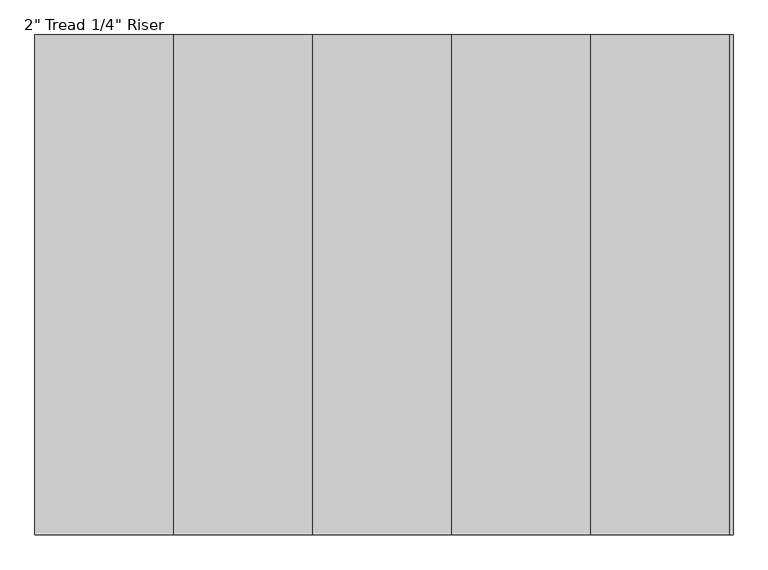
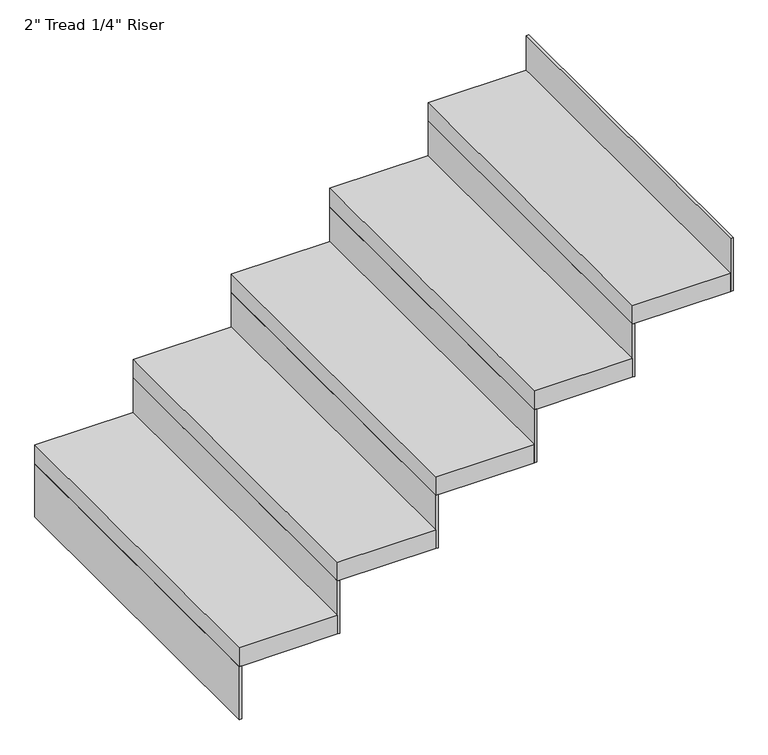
"""IFC4 building model written with IfcOpenShell, lengths in millimetres: stair flight geometry."""

from ifc_helpers import new_model, si_unit, frame, origin, place, context, project, spatial, polyline, outline, extrude, source, transform, mapped, element, save


def stair_flight_6df5a2fd(model_context):
    return source(origin(), model_context, "Body", "SweptSolid", [
        extrude(outline(polyline([(162615.3528142, 32332.2812523), (162609.0028142, 32332.2812523), (162609.0028142, 33246.6812523), (162615.3528142, 33246.6812523), (162615.3528142, 32332.2812523)])), frame((0.0, 0.0, 2126.3428571), z_axis=(0.0, 0.0, 1.0), x_axis=(1.0, 0.0, 0.0)), (0.0, 0.0, 1.0), 145.1428571),
        extrude(outline(polyline([(162863.0028142, 33246.6812523), (162863.0028142, 32332.2812523), (162609.0028142, 32332.2812523), (162609.0028142, 33246.6812523), (162863.0028142, 33246.6812523)])), frame((0.0, 0.0, 2271.4857143), z_axis=(0.0, 0.0, 1.0), x_axis=(1.0, 0.0, 0.0)), (0.0, 0.0, 1.0), 50.8),
        extrude(outline(polyline([(162869.3528142, 32332.2812523), (162863.0028142, 32332.2812523), (162863.0028142, 33246.6812523), (162869.3528142, 33246.6812523), (162869.3528142, 32332.2812523)])), frame((0.0, 0.0, 2271.4857143), z_axis=(0.0, 0.0, 1.0), x_axis=(1.0, 0.0, 0.0)), (0.0, 0.0, 1.0), 145.1428571),
        extrude(outline(polyline([(163117.0028142, 33246.6812523), (163117.0028142, 32332.2812523), (162863.0028142, 32332.2812523), (162863.0028142, 33246.6812523), (163117.0028142, 33246.6812523)])), frame((0.0, 0.0, 2416.6285714), z_axis=(0.0, 0.0, 1.0), x_axis=(1.0, 0.0, 0.0)), (0.0, 0.0, 1.0), 50.8),
        extrude(outline(polyline([(163123.3528142, 32332.2812523), (163117.0028142, 32332.2812523), (163117.0028142, 33246.6812523), (163123.3528142, 33246.6812523), (163123.3528142, 32332.2812523)])), frame((0.0, 0.0, 2416.6285714), z_axis=(0.0, 0.0, 1.0), x_axis=(1.0, 0.0, 0.0)), (0.0, 0.0, 1.0), 145.1428571),
        extrude(outline(polyline([(163371.0028142, 33246.6812523), (163371.0028142, 32332.2812523), (163117.0028142, 32332.2812523), (163117.0028142, 33246.6812523), (163371.0028142, 33246.6812523)])), frame((0.0, 0.0, 2561.7714286), z_axis=(0.0, 0.0, 1.0), x_axis=(1.0, 0.0, 0.0)), (0.0, 0.0, 1.0), 50.8),
        extrude(outline(polyline([(163377.3528142, 32332.2812523), (163371.0028142, 32332.2812523), (163371.0028142, 33246.6812523), (163377.3528142, 33246.6812523), (163377.3528142, 32332.2812523)])), frame((0.0, 0.0, 2561.7714286), z_axis=(0.0, 0.0, 1.0), x_axis=(1.0, 0.0, 0.0)), (0.0, 0.0, 1.0), 145.1428571),
        extrude(outline(polyline([(163625.0028142, 33246.6812523), (163625.0028142, 32332.2812523), (163371.0028142, 32332.2812523), (163371.0028142, 33246.6812523), (163625.0028142, 33246.6812523)])), frame((0.0, 0.0, 2706.9142857), z_axis=(0.0, 0.0, 1.0), x_axis=(1.0, 0.0, 0.0)), (0.0, 0.0, 1.0), 50.8),
        extrude(outline(polyline([(163631.3528142, 32332.2812523), (163625.0028142, 32332.2812523), (163625.0028142, 33246.6812523), (163631.3528142, 33246.6812523), (163631.3528142, 32332.2812523)])), frame((0.0, 0.0, 2706.9142857), z_axis=(0.0, 0.0, 1.0), x_axis=(1.0, 0.0, 0.0)), (0.0, 0.0, 1.0), 145.1428571),
        extrude(outline(polyline([(163885.3528142, 32332.2812523), (163879.0028142, 32332.2812523), (163879.0028142, 33246.6812523), (163885.3528142, 33246.6812523), (163885.3528142, 32332.2812523)])), frame((0.0, 0.0, 2852.0571429), z_axis=(0.0, 0.0, 1.0), x_axis=(1.0, 0.0, 0.0)), (0.0, 0.0, 1.0), 145.1428571),
        extrude(outline(polyline([(163879.0028142, 33246.6812523), (163879.0028142, 32332.2812523), (163625.0028142, 32332.2812523), (163625.0028142, 33246.6812523), (163879.0028142, 33246.6812523)])), frame((0.0, 0.0, 2852.0571429), z_axis=(0.0, 0.0, 1.0), x_axis=(1.0, 0.0, 0.0)), (0.0, 0.0, 1.0), 50.8),
    ])


if __name__ == "__main__":
    model = new_model("IFC4")
    model_context = context("Model", 3, world=origin())
    ifc_project = project(units=[si_unit("LENGTHUNIT", "METRE", prefix="MILLI")], contexts=[model_context])
    site = spatial("IfcSite", under=ifc_project)
    building = spatial("IfcBuilding", under=site)
    placement = place(None, origin())
    stair_flight_shape = stair_flight_6df5a2fd(model_context)
    element("IfcStairFlight", 1, ObjectType="2\" Tread 1/4\" Riser", at=placement, inside=building, context=model_context, shape_type="MappedRepresentation", body=[
        mapped(stair_flight_shape, transform((0.0, 0.0, 0.0), x_axis=(1.0, 0.0, 0.0), y_axis=(0.0, 1.0, 0.0), z_axis=(0.0, 0.0, 1.0))),
    ])
    save(model, "model.ifc")
